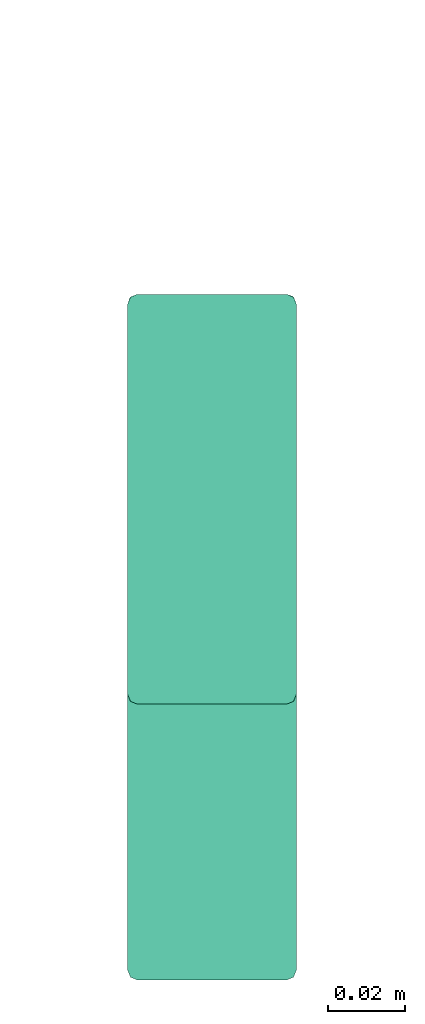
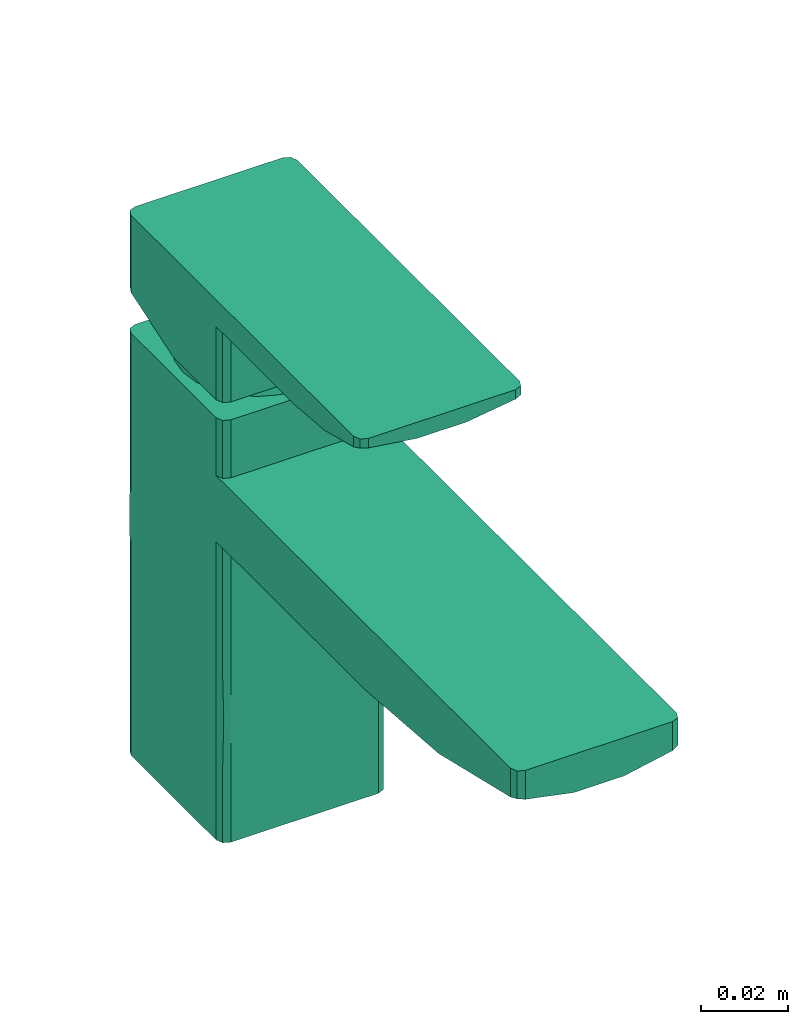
# One storey, part 2 of 2: 1 flow terminal.
"""IFC2X3 building model written with IfcOpenShell, lengths in millimetres."""

from ifc_helpers import new_model, entity, si_unit, converted_unit, derived_unit, direction, frame, origin, place, context, subcontext, project, spatial, faceted_brep, source, transform, mapped, material, type_object, type_shapes, element, save


model = new_model("IFC2X3")

# Units and contexts
model_context = context("Model", 3, precision=0.01, world=origin(), true_north=direction((6.12303176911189e-17, 1.0)))
body_context = subcontext(model_context, "Body", "Model", "MODEL_VIEW")
ifc_project = project(units=[si_unit("LENGTHUNIT", "METRE", prefix="MILLI"), si_unit("AREAUNIT", "SQUARE_METRE"), si_unit("VOLUMEUNIT", "CUBIC_METRE"), converted_unit("PLANEANGLEUNIT", "DEGREE", entity("IfcRatioMeasure", 0.0174532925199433), si_unit("PLANEANGLEUNIT", "RADIAN"), dimensions=[0, 0, 0, 0, 0, 0, 0]), si_unit("MASSUNIT", "GRAM", prefix="KILO"), derived_unit("MASSDENSITYUNIT", [(si_unit("MASSUNIT", "GRAM", prefix="KILO"), 1), (si_unit("LENGTHUNIT", "METRE"), -3)]), derived_unit("MOMENTOFINERTIAUNIT", [(si_unit("LENGTHUNIT", "METRE"), 4)]), si_unit("TIMEUNIT", "SECOND"), si_unit("FREQUENCYUNIT", "HERTZ"), si_unit("THERMODYNAMICTEMPERATUREUNIT", "DEGREE_CELSIUS"), derived_unit("THERMALTRANSMITTANCEUNIT", [(si_unit("MASSUNIT", "GRAM", prefix="KILO"), 1), (si_unit("THERMODYNAMICTEMPERATUREUNIT", "KELVIN"), -1), (si_unit("TIMEUNIT", "SECOND"), -3)]), derived_unit("VOLUMETRICFLOWRATEUNIT", [(si_unit("LENGTHUNIT", "METRE"), 3), (si_unit("TIMEUNIT", "SECOND"), -1)]), si_unit("ELECTRICCURRENTUNIT", "AMPERE"), si_unit("ELECTRICVOLTAGEUNIT", "VOLT"), si_unit("POWERUNIT", "WATT"), si_unit("FORCEUNIT", "NEWTON", prefix="KILO"), si_unit("ILLUMINANCEUNIT", "LUX"), si_unit("LUMINOUSFLUXUNIT", "LUMEN"), si_unit("LUMINOUSINTENSITYUNIT", "CANDELA"), derived_unit("USERDEFINED", [(si_unit("MASSUNIT", "GRAM", prefix="KILO"), -1), (si_unit("LENGTHUNIT", "METRE"), -2), (si_unit("TIMEUNIT", "SECOND"), 3), (si_unit("LUMINOUSFLUXUNIT", "LUMEN"), 1)]), derived_unit("LINEARVELOCITYUNIT", [(si_unit("LENGTHUNIT", "METRE"), 1), (si_unit("TIMEUNIT", "SECOND"), -1)]), si_unit("PRESSUREUNIT", "PASCAL"), derived_unit("USERDEFINED", [(si_unit("LENGTHUNIT", "METRE"), -2), (si_unit("MASSUNIT", "GRAM", prefix="KILO"), 1), (si_unit("TIMEUNIT", "SECOND"), -2)]), derived_unit("LINEARFORCEUNIT", [(si_unit("MASSUNIT", "GRAM", prefix="KILO"), 1), (si_unit("LENGTHUNIT", "METRE"), 1), (si_unit("TIMEUNIT", "SECOND"), -2), (si_unit("LENGTHUNIT", "METRE"), -1)]), derived_unit("PLANARFORCEUNIT", [(si_unit("MASSUNIT", "GRAM", prefix="KILO"), 1), (si_unit("LENGTHUNIT", "METRE"), 1), (si_unit("TIMEUNIT", "SECOND"), -2), (si_unit("LENGTHUNIT", "METRE"), -2)])], contexts=[model_context])

# Site, building, storey
site_placement = place(None, origin())
site = spatial("IfcSite", under=ifc_project, at=site_placement, Name="Default", CompositionType="ELEMENT")
building_placement = place(site_placement, origin())
building = spatial("IfcBuilding", under=site, at=building_placement, CompositionType="ELEMENT")
storey_placement = place(building_placement, origin())
storey = spatial("IfcBuildingStorey", under=building, at=storey_placement, Name="Level 1", CompositionType="ELEMENT", Elevation=0.0)

# Flow terminal
ifc_material = material(Name="Black")
distribution_element_type = type_object("IfcDistributionElementType", Name="FFAS1306-1T1440BT0_REVIT:Acacia E Basin mono_Matt Black", material=ifc_material)
shared_shape = source(origin(), body_context, "Body", "Brep", [
    faceted_brep([(22.0, 0.753162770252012, 123.444717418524), (17.3845231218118, -0.0030426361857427, 123.262625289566), (17.2595729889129, 0.753162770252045, 123.444717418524), (-17.2595729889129, 0.753162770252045, 123.444717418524), (-17.3845231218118, -0.00304263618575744, 123.262625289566), (-22.0, 0.753162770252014, 123.444717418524), (22.0, -0.00974987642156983, 123.261558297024), (22.0, -0.791922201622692, 123.2), (17.4032427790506, -0.791922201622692, 123.2), (-22.0, -0.0097498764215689, 123.261558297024), (-17.4032427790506, -0.79192220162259, 123.2), (-22.0, -0.791922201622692, 123.2), (-19.5, -22.0, 13.8021740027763), (-19.5, -22.0, 27.6043480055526), (-21.2677669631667, -21.267766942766, 20.7032618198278), (-21.2677669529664, -21.2677669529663, 0.0), (-21.2876903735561, -21.2476164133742, 48.2181693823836), (-21.2839573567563, -21.2514268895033, 63.3868747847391), (-22.0, -19.5, 55.8655379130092), (-19.5, -22.0, 0.0), (-21.2677669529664, -21.2677669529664, 101.969886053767), (-19.5, -22.0, 101.969886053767), (-19.5, -22.0, 118.2), (-21.2677669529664, -21.2677669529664, 118.2), (-19.5000000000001, -22.0, 143.121385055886), (-21.2677669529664, -21.2677669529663, 123.2), (-19.5, -22.0, 123.2), (-21.0706431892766, -21.4450141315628, 34.4752834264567), (-22.0, -19.5, 42.0633642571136), (-22.0, -19.5, 28.2611897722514), (-22.0, -19.5, 69.6677115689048), (-21.2484251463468, -21.2868994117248, 83.2257673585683), (-19.5, -22.0, 68.891616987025), (-19.5, -22.0, 82.6937909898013), (-19.5, -22.0, 41.3468954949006), (-19.5, -22.0, 55.0894429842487), (-22.0, -19.5, 13.8021744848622), (-22.0, -19.5, 0.0), (-22.0, -19.5, 118.2), (-22.0, -19.5, 101.969886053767), (-22.0, -19.5, 83.469886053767), (6.57743038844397, -22.0, 80.2325805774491), (-6.57743038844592, -22.0, 80.2325805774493), (19.4999999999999, -22.0, 0.0), (19.4999999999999, -22.0, 13.8021732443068), (19.4999999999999, -22.0, 27.6043475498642), (19.4999999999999, -22.0, 41.4065218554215), (19.4999999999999, -22.0, 55.2086961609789), (19.4999999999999, -22.0, 68.8916166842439), (19.4999999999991, -22.0, 82.6937909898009), (19.5, -22.0, 118.2), (19.4999999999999, -22.0, 101.969886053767), (0.0, -22.0, 141.162760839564), (19.5, -22.0, 123.2), (19.4999999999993, -22.0, 143.121385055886), (21.2484251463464, -21.2868994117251, 83.2257673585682), (21.2524865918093, -21.2829163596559, 62.0501573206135), (22.0, -19.5, 69.6677112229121), (21.4802157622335, -21.0260227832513, 33.6565790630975), (21.26776692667, -21.2677669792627, 20.7032617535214), (22.0, -19.5, 27.6043483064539), (21.1653349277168, -21.3645802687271, 46.3917906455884), (22.0, -19.5, 55.8655377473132), (21.2677669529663, -21.2677669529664, 0.0), (21.2677669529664, -21.2677669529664, 101.969886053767), (21.2677669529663, -21.2677669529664, 118.2), (21.2677669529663, -21.2677669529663, 123.2), (22.0, -19.5, 41.7349423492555), (22.0, -19.5, 83.4698860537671), (22.0, -19.5, 13.8021734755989), (22.0, -19.5, 0.0), (22.0, -19.5, 101.969886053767), (22.0, -19.5, 118.2), (22.0, -56.0171585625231, 83.469886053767), (22.0, -37.7585461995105, 83.469886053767), (22.0, -28.6293061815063, 83.469886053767), (22.0, -24.0646861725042, 83.469886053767), (-22.0, -37.758564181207, 83.4698860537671), (-22.0, -56.0171283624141, 83.4698860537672), (-22.0, -24.0646410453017, 83.4698860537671), (-22.0, -21.7823052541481, 83.4698860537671), (-7.4456517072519, -88.0, 80.3199871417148), (-22.0, -88.0, 83.4698860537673), (7.44565170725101, -88.0, 80.3199871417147), (0.0, -88.0, 80.3199871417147), (22.0, -21.7823100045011, 83.469886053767), (-22.0, -28.6292820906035, 83.4698860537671), (22.0, -88.0, 83.4698860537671), (-22.0, -154.500000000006, 101.969886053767), (-21.2677669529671, -156.267766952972, 101.969886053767), (-19.5000000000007, -157.0, 101.969886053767), (19.5, -157.0, 101.969886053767), (21.2677669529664, -156.267766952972, 101.969886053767), (22.0, -154.500000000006, 101.969886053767), (-22.0, 19.5, 118.2), (-22.0, 19.5, 104.397826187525), (-22.0, 19.5, 90.5956517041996), (-22.0, 19.5, 74.8478260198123), (-22.0, 19.5, 59.1000003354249), (-22.0, 19.5, 44.3250002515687), (-22.0, 19.5, 29.5500001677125), (-22.0, 19.5, 13.8021744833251), (-22.0, 19.5, 0.0), (-22.0, -121.652543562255, 86.0802617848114), (-22.0, -154.500000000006, 93.8489396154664), (-22.0, -82.5, 151.2), (-22.0, 19.5, 151.2), (-22.0, 19.5, 129.535934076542), (-22.0, -19.5, 123.2), (-22.0, -19.5, 143.662760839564), (-22.0, -20.8505832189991, 143.662760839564), (-22.0, -22.2011664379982, 143.662760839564), (-22.0, -24.9023328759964, 143.662760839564), (-22.0, -30.3046657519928, 143.662760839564), (-22.0, -41.1093315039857, 143.662760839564), (-22.0, -55.7774207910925, 143.662760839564), (-22.0, -69.3306105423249, 144.807182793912), (-22.0, -82.5, 148.208040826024), (-21.2676492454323, -156.26788465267, 94.1723251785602), (-19.5000000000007, -157.0, 93.8475401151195), (-6.5783039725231, -157.0, 91.2559273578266), (6.59797986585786, -157.0, 91.2578848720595), (19.5, -157.0, 93.8475401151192), (21.2685628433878, -156.266970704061, 94.1723312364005), (22.0, -154.500000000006, 93.8489396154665), (22.0, -121.652543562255, 86.0802617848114), (22.0, 19.5, 0.0), (22.0, 19.5, 13.8021748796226), (22.0, 19.5, 31.4956515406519), (22.0, 19.5, 47.243478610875), (22.0, 19.5, 62.9913030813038), (22.0, 19.5, 76.7934779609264), (22.0, 19.5, 90.5956502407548), (22.0, 19.5, 104.397825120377), (22.0, 19.5, 118.2), (22.0, -82.5, 151.2), (22.0, -82.4999999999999, 148.208040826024), (22.0, -69.3306105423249, 144.807182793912), (22.0, -55.7774207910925, 143.662760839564), (22.0, -41.1093311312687, 143.662760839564), (22.0, -30.3046655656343, 143.662760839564), (22.0, -24.9023327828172, 143.662760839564), (22.0, -22.2011663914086, 143.662760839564), (22.0, -20.8505831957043, 143.662760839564), (22.0, -19.5, 143.662760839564), (22.0, -19.5, 123.2), (22.0, 19.499999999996, 129.53593407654), (22.0, 19.499999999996, 151.2), (-4.81915001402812, -110.922500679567, 81.277670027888), (-2.56455429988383, -109.639621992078, 81.02836644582), (0.0, -109.195142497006, 80.9380208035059), (-7.36943842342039, -115.313717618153, 82.0032755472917), (2.56455429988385, -109.639621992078, 81.02836644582), (-7.36324790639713, -117.895666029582, 82.3390488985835), (-6.48657425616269, -112.890505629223, 81.6271869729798), (4.81915001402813, -110.922500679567, 81.277670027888), (7.36943842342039, -115.313717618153, 82.0032755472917), (6.4865742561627, -112.890505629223, 81.6271869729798), (7.36324790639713, -117.895666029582, 82.3390488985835), (6.47478796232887, -120.331350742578, 82.5955887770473), (-6.47478796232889, -120.331350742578, 82.5955887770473), (-4.80949325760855, -122.328666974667, 82.7633142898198), (-2.56289768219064, -123.640676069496, 82.8530214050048), (0.0, -124.099027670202, 82.8805932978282), (2.56289768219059, -123.640676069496, 82.8530214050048), (4.80949325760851, -122.328666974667, 82.7633142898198), (0.0, -117.318751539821, 79.0), (0.0, -124.606495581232, 80.6825082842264), (-6.47738647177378, -120.962623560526, 79.841254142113), (-6.47738647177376, -113.674879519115, 78.1587458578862), (0.0, -110.031007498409, 77.3174917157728), (6.47738647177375, -120.962623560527, 79.841254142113), (6.47738647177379, -113.674879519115, 78.1587458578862), (21.2677669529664, 21.2677669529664, 118.2), (19.5, 22.0, 118.2), (13.7885822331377, 13.7885822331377, 118.2), (9.75000000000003, 16.8874953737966, 118.2), (5.04697137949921, 18.8355536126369, 118.2), (0.0, 19.5000000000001, 118.2), (-19.5, 22.0, 118.2), (-5.04697137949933, 18.8355536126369, 118.2), (-9.75000000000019, 16.8874953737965, 118.2), (-13.7885822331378, 13.7885822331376, 118.2), (-21.2677669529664, 21.2677669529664, 118.2), (-16.8874953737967, 9.74999999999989, 118.2), (-18.8355536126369, 5.04697137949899, 118.2), (-19.5, 0.0, 118.2), (-18.8355536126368, -5.04697137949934, 118.2), (-16.8874953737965, -9.75000000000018, 118.2), (-13.7885822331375, -13.7885822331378, 118.2), (-9.74999999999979, -16.8874953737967, 118.2), (-5.04697137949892, -18.8355536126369, 118.2), (0.0, -19.5, 118.2), (5.04697137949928, -18.8355536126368, 118.2), (9.75000000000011, -16.8874953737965, 118.2), (13.7885822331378, -13.7885822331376, 118.2), (19.5, 0.0, 118.2), (18.8355536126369, -5.04697137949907, 118.2), (16.8874953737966, -9.74999999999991, 118.2), (16.8874953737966, 9.75000000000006, 118.2), (18.8355536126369, 5.04697137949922, 118.2), (-21.2677669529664, 21.2677669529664, 0.0), (-19.5, 22.0, 0.0), (19.5, 22.0, 0.0), (21.2677669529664, 21.2677669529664, 0.0), (19.5, 22.0, 104.397825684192), (19.5, 22.0, 90.5956513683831), (19.5, 22.0, 74.8478252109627), (19.5, 22.0, 59.0999990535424), (19.5, 22.0, 43.352172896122), (19.5, 22.0, 27.6043467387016), (19.5, 22.0, 13.8021743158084), (-19.5, 22.0, 13.8021738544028), (-19.5, 22.0, 27.6043480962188), (-19.5, 22.0, 45.2978257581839), (-19.5, 22.0, 62.991303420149), (-19.5, 22.0, 76.7934776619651), (-19.5, 22.0, 90.5956519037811), (-19.5, 22.0, 104.397826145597), (-19.5, 22.0, 143.121385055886), (-19.5, 22.0, 151.2), (19.5, 22.0, 151.2), (19.5, 22.0, 143.121385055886), (19.5, 22.0, 130.348233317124), (-19.5, 22.0, 130.348233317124), (-21.2403150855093, 21.2947989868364, 36.9375020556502), (-21.2517481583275, 21.2836418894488, 52.5237810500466), (-21.2677669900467, 21.2677669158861, 97.4967390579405), (-21.1925476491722, 21.339913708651, 81.4057797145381), (-21.2677669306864, 21.2677669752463, 20.7032627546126), (-21.4246479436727, 21.095534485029, 67.0072267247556), (-21.2677669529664, 21.2677669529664, 151.2), (21.2677669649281, 21.2677669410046, 20.7032612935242), (21.0457234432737, 21.4648763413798, 68.0293327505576), (21.3399137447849, 21.1925476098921, 81.4057792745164), (21.3478790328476, 21.1838477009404, 39.3695656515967), (21.3280549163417, 21.2053490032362, 54.626981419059), (21.2677669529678, 21.267766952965, 151.2), (21.2677669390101, 21.2677669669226, 97.4967389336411), (19.5, -85.0, 151.2), (21.2677669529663, -84.2677669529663, 151.2), (-21.2677669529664, -84.2677669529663, 151.2), (-19.5, -85.0, 151.2), (-16.6447343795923, -5.14323025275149, 123.2), (-14.8162894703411, -9.16392745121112, 123.2), (-12.0354419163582, -12.595560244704, 123.2), (-8.48094676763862, -15.2175406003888, 123.2), (-4.38128974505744, -16.861325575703, 123.2), (0.0, -17.4212513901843, 123.2), (4.38128974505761, -16.8613255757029, 123.2), (8.48094676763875, -15.2175406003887, 123.2), (12.0354419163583, -12.5955602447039, 123.2), (14.8162894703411, -9.16392745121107, 123.2), (16.6447343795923, -5.14323025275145, 123.2), (-21.2677722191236, 21.2677616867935, 130.110314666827), (-21.2579393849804, -21.2775401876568, 143.494933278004), (-21.4865459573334, -20.7299334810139, 143.54663590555), (21.2586277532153, -21.2768591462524, 143.495086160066), (21.4867780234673, -20.7300476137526, 143.546686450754), (21.267772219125, 21.267761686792, 130.110314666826), (-21.2840980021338, -84.2512836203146, 148.67121602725), (-19.5, -85.0, 148.550013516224), (-6.53688578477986, -85.0, 146.687997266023), (6.55003772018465, -85.0, 146.688936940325), (19.5, -85.0, 148.550013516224), (21.2849373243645, -84.2504281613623, 148.671094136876), (0.0068178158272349, -71.7520730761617, 142.70836299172), (0.0, -55.7774207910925, 141.162760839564), (-11.1949079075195, -72.7383063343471, 143.562206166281), (-12.9793432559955, -55.7774207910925, 142.637686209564), (12.9793431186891, -55.7774207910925, 142.637686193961), (-6.71323468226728, 16.2071826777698, 122.98945356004), (-3.06678463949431, 18.0507325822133, 121.498282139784), (0.0, -18.6291358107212, 120.770058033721), (-9.06295891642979, 11.4722408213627, 126.927557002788), (-10.8485341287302, 14.1380853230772, 122.483037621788), (-12.7843212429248, 8.6556169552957, 126.012380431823), (-16.376504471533, 7.7347504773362, 121.914002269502), (-15.5852492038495, 4.99434410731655, 124.822760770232), (-3.26867142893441, 15.9931431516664, 124.881044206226), (0.0, 17.3362230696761, 123.344205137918), (-14.3141852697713, 10.9836610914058, 122.052397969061), (0.0, 13.8459297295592, 127.69881528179), (-4.6931432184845, 13.2435031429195, 127.503075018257), (-17.6133054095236, 4.58472460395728, 121.730308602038), (4.69314321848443, 13.2435031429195, 127.503075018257), (6.71323452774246, 16.207182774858, 122.989453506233), (3.46828768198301, 17.7741411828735, 121.917778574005), (14.3141851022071, 10.9836613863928, 122.052397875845), (10.8485339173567, 14.1380855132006, 122.483037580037), (9.06295891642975, 11.4722408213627, 126.927557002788), (16.3765047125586, 7.73475047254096, 121.914001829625), (12.7843212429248, 8.65561695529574, 126.012380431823), (15.5852492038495, 4.99434410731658, 124.822760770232), (17.613305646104, 4.58472278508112, 121.730309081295)], [[[0, 1, 2]], [[3, 4, 5]], [[1, 0, 6]], [[6, 7, 8]], [[9, 10, 11]], [[6, 8, 1]], [[12, 13, 14, 15]], [[16, 17, 18]], [[15, 19, 12]], [[20, 21, 22, 23]], [[24, 25, 26]], [[27, 28, 29]], [[30, 17, 31]], [[32, 33, 31]], [[34, 35, 16]], [[34, 27, 13]], [[36, 37, 15]], [[38, 39, 20, 23]], [[34, 16, 27]], [[32, 17, 35]], [[29, 14, 27]], [[14, 13, 27]], [[29, 36, 15, 14]], [[31, 40, 30]], [[35, 17, 16]], [[16, 28, 27]], [[16, 18, 28]], [[31, 17, 32]], [[18, 17, 30]], [[41, 42, 33, 32, 35, 34, 13, 12, 19, 43, 44, 45, 46, 47, 48, 49]], [[50, 22, 21, 51]], [[52, 24, 26, 53, 54]], [[55, 48, 56]], [[55, 49, 48]], [[57, 55, 56]], [[58, 59, 60]], [[56, 61, 62]], [[63, 59, 44]], [[48, 47, 56]], [[63, 44, 43]], [[50, 51, 64, 65]], [[66, 54, 53]], [[67, 58, 60]], [[61, 67, 62]], [[56, 47, 61]], [[68, 55, 57]], [[63, 69, 59]], [[45, 44, 59]], [[58, 67, 61]], [[61, 47, 46]], [[58, 45, 59]], [[56, 62, 57]], [[69, 63, 70]], [[64, 71, 72, 65]], [[69, 60, 59]], [[58, 46, 45]], [[58, 61, 46]], [[73, 41, 74]], [[75, 74, 49, 76]], [[77, 42, 78]], [[40, 31, 79, 80]], [[81, 82, 78]], [[78, 42, 81]], [[81, 42, 41, 83, 84]], [[55, 68, 85, 76]], [[33, 79, 31]], [[77, 86, 79, 33]], [[87, 83, 73]], [[77, 33, 42]], [[73, 83, 41]], [[41, 49, 74]], [[49, 55, 76]], [[20, 39, 88, 89, 90, 91, 92, 93, 71, 64, 51, 21]], [[38, 94, 95, 96, 97, 98, 99, 100, 101, 102, 37, 36, 29, 28, 18, 30, 40, 80, 79, 86, 77, 78, 82, 103, 104, 88, 39]], [[105, 106, 107, 5, 9, 11, 108, 109, 110, 111, 112, 113, 114, 115, 116, 117]], [[89, 88, 118]], [[118, 88, 104]], [[118, 119, 90]], [[118, 90, 89]], [[91, 90, 119, 120, 121, 122]], [[92, 91, 123]], [[123, 91, 122]], [[123, 124, 93]], [[123, 93, 92]], [[71, 93, 124, 125, 87, 73, 74, 75, 76, 85, 68, 57, 62, 67, 60, 69, 70, 126, 127, 128, 129, 130, 131, 132, 133, 134, 72]], [[135, 136, 137, 138, 139, 140, 141, 142, 143, 144, 145, 7, 6, 0, 146, 147]], [[148, 81, 149]], [[149, 84, 150]], [[151, 82, 81]], [[81, 84, 149]], [[152, 84, 83]], [[151, 153, 103]], [[81, 148, 154]], [[81, 154, 151]], [[103, 82, 151]], [[83, 155, 152]], [[83, 87, 156]], [[157, 155, 83]], [[125, 156, 87]], [[150, 84, 152]], [[125, 158, 156]], [[83, 156, 157]], [[159, 158, 122]], [[120, 160, 161]], [[103, 153, 119]], [[161, 162, 120]], [[119, 153, 160]], [[119, 118, 104]], [[119, 160, 120]], [[104, 103, 119]], [[163, 120, 162]], [[164, 165, 121]], [[122, 158, 125]], [[159, 121, 165]], [[121, 163, 164]], [[125, 124, 122]], [[122, 124, 123]], [[122, 121, 159]], [[121, 120, 163]], [[166, 167, 168]], [[168, 169, 166]], [[169, 170, 166]], [[166, 171, 167]], [[170, 172, 166]], [[171, 166, 172]], [[148, 170, 169]], [[151, 169, 153]], [[154, 169, 151]], [[150, 170, 149]], [[148, 149, 170]], [[154, 148, 169]], [[162, 168, 167]], [[162, 167, 163]], [[153, 169, 160]], [[162, 161, 168]], [[160, 168, 161]], [[160, 169, 168]], [[164, 163, 167]], [[164, 167, 171]], [[165, 164, 171]], [[172, 158, 159]], [[165, 171, 159]], [[159, 171, 172]], [[157, 156, 172]], [[172, 156, 158]], [[155, 172, 170]], [[157, 172, 155]], [[155, 170, 152]], [[170, 150, 152]], [[173, 174, 134]], [[134, 174, 175]], [[176, 175, 174]], [[177, 176, 174]], [[178, 177, 174]], [[174, 179, 178]], [[180, 178, 179]], [[181, 180, 179]], [[181, 179, 182]], [[94, 182, 179]], [[179, 183, 94]], [[184, 182, 94]], [[185, 184, 94]], [[185, 94, 186]], [[186, 94, 38]], [[187, 186, 38]], [[188, 187, 38]], [[38, 189, 188]], [[22, 189, 38]], [[22, 38, 23]], [[190, 189, 22]], [[190, 22, 191]], [[192, 191, 22]], [[192, 22, 50]], [[50, 193, 192]], [[194, 193, 50]], [[195, 194, 50]], [[50, 72, 195]], [[50, 65, 72]], [[196, 72, 134]], [[72, 196, 197]], [[197, 198, 72]], [[198, 195, 72]], [[175, 199, 134]], [[199, 200, 134]], [[134, 200, 196]], [[102, 201, 202, 203, 204, 126, 70, 63, 43, 19, 15, 37]], [[174, 205, 206, 207, 208, 209, 210, 211, 203, 202, 212, 213, 214, 215, 216, 217, 218, 179]], [[219, 220, 221, 222, 223, 224]], [[99, 225, 100]], [[99, 98, 226]], [[183, 227, 95]], [[225, 226, 214]], [[96, 227, 228]], [[229, 225, 213]], [[95, 94, 183]], [[201, 102, 101]], [[201, 229, 212]], [[229, 201, 101]], [[228, 217, 216]], [[228, 227, 217]], [[99, 226, 225]], [[183, 218, 227]], [[96, 95, 227]], [[96, 228, 97]], [[97, 228, 230]], [[212, 229, 213]], [[212, 202, 201]], [[218, 183, 179]], [[220, 219, 231]], [[100, 229, 101]], [[213, 225, 214]], [[229, 100, 225]], [[230, 216, 215]], [[215, 226, 230]], [[98, 97, 230]], [[215, 214, 226]], [[228, 216, 230]], [[98, 230, 226]], [[218, 217, 227]], [[210, 232, 204, 211]], [[233, 234, 131]], [[209, 235, 210]], [[209, 236, 235]], [[236, 129, 235]], [[205, 174, 173]], [[204, 203, 211]], [[221, 237, 222]], [[206, 238, 234]], [[204, 127, 126]], [[133, 173, 134]], [[173, 238, 205]], [[173, 133, 238]], [[234, 238, 132]], [[206, 205, 238]], [[206, 234, 207]], [[207, 234, 233]], [[128, 127, 204, 232]], [[234, 132, 131]], [[130, 236, 233]], [[235, 232, 210]], [[232, 235, 128]], [[128, 235, 129]], [[236, 209, 208]], [[208, 207, 233]], [[130, 129, 236]], [[133, 132, 238]], [[233, 131, 130]], [[208, 233, 236]], [[239, 240, 135, 147, 237, 221, 220, 231, 106, 105, 241, 242]], [[8, 7, 145, 66, 53, 26, 25, 108, 11, 10, 243, 244, 245, 246, 247, 248, 249, 250, 251, 252, 253]], [[219, 224, 254]], [[254, 107, 106]], [[106, 231, 254]], [[254, 231, 219]], [[108, 255, 256, 109]], [[255, 108, 25]], [[25, 24, 255]], [[257, 54, 66]], [[145, 144, 258, 257]], [[145, 257, 66]], [[147, 146, 259]], [[147, 259, 237]], [[222, 237, 259]], [[222, 259, 223]], [[105, 117, 260]], [[105, 260, 241]], [[260, 242, 241]], [[242, 260, 261]], [[239, 242, 261, 262, 263, 264]], [[240, 239, 265]], [[265, 239, 264]], [[265, 136, 135]], [[265, 135, 240]], [[137, 264, 263]], [[266, 263, 262]], [[137, 263, 266]], [[117, 261, 260]], [[267, 268, 269]], [[262, 261, 268]], [[115, 269, 116]], [[264, 136, 265]], [[267, 270, 266]], [[270, 138, 137]], [[137, 266, 270]], [[117, 268, 261]], [[268, 116, 269]], [[268, 266, 262]], [[117, 116, 268]], [[137, 136, 264]], [[267, 266, 268]], [[52, 54, 140]], [[139, 138, 270, 267, 52, 140]], [[113, 24, 52]], [[257, 142, 54]], [[113, 112, 111, 24]], [[258, 144, 143, 142, 257]], [[114, 113, 52, 267, 269, 115]], [[256, 255, 111, 110, 109]], [[141, 140, 54, 142]], [[24, 111, 255]], [[271, 272, 180]], [[247, 246, 191]], [[248, 247, 273]], [[244, 243, 188]], [[274, 271, 275]], [[245, 244, 189]], [[276, 277, 278]], [[243, 10, 187]], [[272, 279, 280]], [[246, 245, 190]], [[192, 273, 191]], [[273, 247, 191]], [[275, 182, 281]], [[245, 189, 190]], [[282, 279, 283]], [[246, 190, 191]], [[185, 277, 184]], [[244, 188, 189]], [[243, 187, 188]], [[10, 186, 187]], [[277, 284, 278]], [[279, 271, 283]], [[3, 278, 284]], [[277, 276, 281]], [[282, 280, 279]], [[275, 281, 274]], [[271, 274, 283]], [[272, 271, 279]], [[4, 186, 10]], [[4, 3, 186]], [[277, 281, 184]], [[3, 284, 186]], [[284, 277, 185]], [[181, 182, 275]], [[178, 272, 280]], [[281, 182, 184]], [[181, 275, 271]], [[180, 181, 271]], [[178, 180, 272]], [[186, 284, 185]], [[281, 276, 274]], [[280, 282, 285]], [[285, 286, 287]], [[288, 289, 290]], [[291, 199, 288]], [[291, 292, 293]], [[196, 294, 2]], [[289, 175, 176]], [[291, 294, 200]], [[286, 176, 177]], [[178, 280, 287]], [[178, 287, 177]], [[287, 286, 177]], [[199, 291, 200]], [[292, 291, 288]], [[286, 290, 289]], [[294, 196, 200]], [[176, 286, 289]], [[288, 199, 175]], [[289, 288, 175]], [[2, 1, 196]], [[290, 286, 285]], [[288, 290, 292]], [[8, 253, 197]], [[8, 197, 196]], [[252, 251, 195]], [[291, 293, 294]], [[250, 249, 193]], [[285, 287, 280]], [[251, 250, 194]], [[253, 252, 198]], [[293, 2, 294]], [[198, 252, 195]], [[194, 195, 251]], [[198, 197, 253]], [[273, 193, 249]], [[192, 193, 273]], [[193, 194, 250]], [[248, 273, 249]], [[8, 196, 1]], [[223, 259, 146, 0, 2, 293, 292, 290, 285, 282, 283, 274, 276, 278, 3, 5, 107, 254, 224]], [[5, 4, 9]], [[10, 9, 4]]]),
])
type_shapes(distribution_element_type, [shared_shape])
flow_terminal_placement = place(storey_placement, frame((-1747.79293155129, 1114.83382976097, 0.0)))
element("IfcFlowTerminal", 1, at=flow_terminal_placement, inside=storey, type_object=distribution_element_type, material=ifc_material, Name="FFAS1306-1T1440BT0_REVIT:Acacia E Basin mono_Matt Black", ObjectType="FFAS1306-1T1440BT0_REVIT:Acacia E Basin mono_Matt Black", context=body_context, shape_type="MappedRepresentation", body=[
    mapped(shared_shape, transform((0.0, 0.0, 0.0), scale=1.0)),
])

save(model, "model.ifc")
